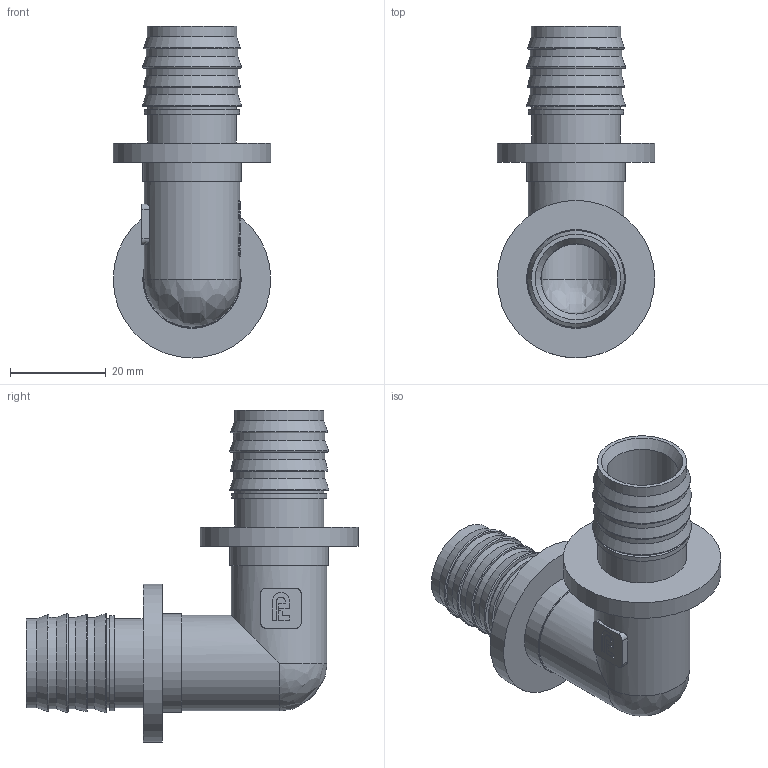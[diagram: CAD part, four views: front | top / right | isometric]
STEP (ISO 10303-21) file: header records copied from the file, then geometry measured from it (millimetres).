
FILE_DESCRIPTION(/* description */ (''),/* implementation_level */ '2;1');
FILE_NAME(/* name */ 'C:\Users\Doom\Desktop\Фадотех\Натяжка\FD-SFU03NEW 25 24.12.2019\FD-SFU03NEW 25 24.12.2019.stp',/* time_stamp */ '2022-07-24T21:08:34+03:00',/* author */ ('Doom'),/* organization */ (''),/* preprocessor_version */ 'ST-DEVELOPER v18',/* originating_system */ 'Autodesk Inventor 2020',/* authorisation */ '');
FILE_SCHEMA (('AUTOMOTIVE_DESIGN { 1 0 10303 214 3 1 1 }'));
Length unit declared in the file: millimetre
Products named in the file (1): FD-SFU03NEW 25 24.12.2019
Bounding box: 33 x 69.5 x 69.5 mm (x, y, z)
Volume: 18474.9 mm3; surface area: 14625.4 mm2
Topology: 1 solids, 1 shells, 186 faces, 532 edges, 365 vertices
Faces by surface type: bspline 71, plane 67, cylinder 28, cone 12, torus 8
Full cylindrical faces by diameter (mm): 14.7 x2, 18.626 x4, 18.7 x2, 19.13 x6, 19.9 x2, 20 x2, 20.6 x2, 33 x2
Entity records: 7698 total; most frequent: CARTESIAN_POINT 3112, ORIENTED_EDGE 1052, DIRECTION 786, EDGE_CURVE 526, VERTEX_POINT 364, AXIS2_PLACEMENT_3D 288, LINE 210, VECTOR 210
